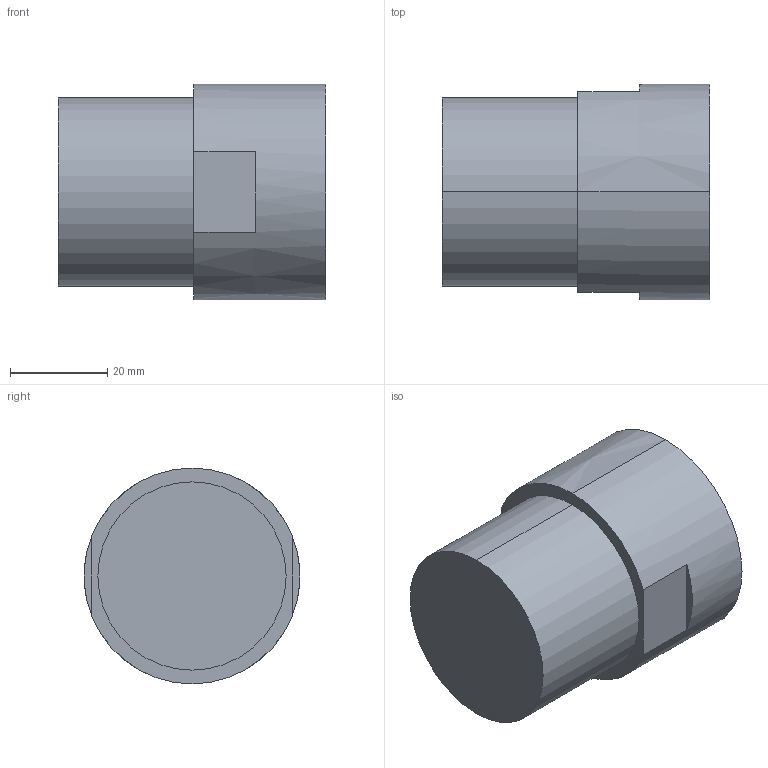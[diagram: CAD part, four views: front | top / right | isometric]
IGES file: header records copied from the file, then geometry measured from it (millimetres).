
Start section: SolidWorks IGES file using analytic representation for surfaces
Global section: file name: S:\Product Visuals\Pumps to be Defeatured\140 fittings\FITTING ASSEMBLIES\DEFEATURED\12-fnpt.IGS; native system: SolidWorks 2012; preprocessor: SolidWorks 2012; author: rachel.dressel; date: 121203.093554; units: inch
Bounding box: 55.12 x 44.45 x 44.45 mm (x, y, z)
Volume: 66507.7 mm3; surface area: 11647 mm2
Topology: 1 solids, 1 shells, 16 faces, 34 edges, 22 vertices
Faces by surface type: revolution 8, plane 8
